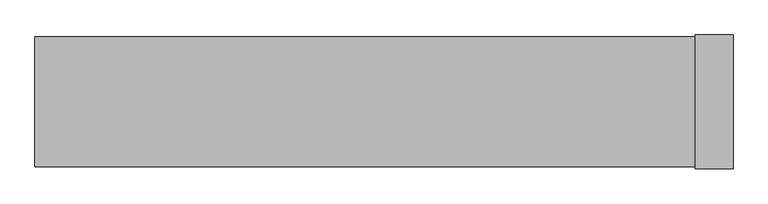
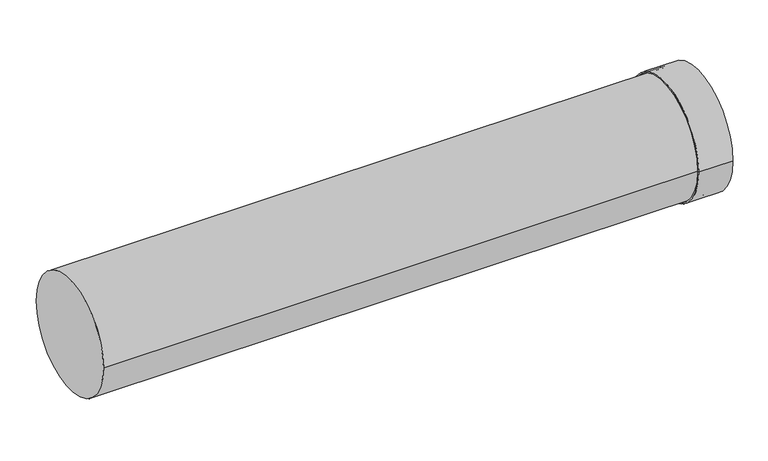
"""IFC4 building model written with IfcOpenShell, lengths in millimetres: duct fitting geometry, NLRS_57_DUF_UN_extension EPS_M&G : ø125 - ø200."""

from ifc_helpers import new_model, si_unit, point, frame, origin, origin_2d, place, context, project, spatial, polyline, circle_curve, trimmed, segment, composite_curve, outline, extrude, source, transform, mapped, element, save
from ifc_brep_helpers import plane_surface, cylinder_surface, revolved_surface, advanced_brep


def duct_fitting_ea8c9f57(model_context):
    return source(origin(), model_context, "Body", "SolidModel", [
        advanced_brep(
        [(973.0, -98.5, 0.0), (973.0, 98.5, 0.0), (1029.0, 98.5, 0.0), (1029.0, -98.5, 0.0), (973.0, -96.5, 0.0), (973.0, 96.5, 0.0), (1000.0, -96.5, 0.0), (1000.0, 96.5, 0.0), (1000.0, -94.5, 0.0), (1000.0, 94.5, 0.0), (1002.0, -96.5, 0.0), (1002.0, 96.5, 0.0), (1002.0, 94.5, 0.0), (1002.0, -94.5, 0.0), (1029.0, -96.5, 0.0), (1029.0, 96.5, 0.0)],
        [
            (0, 1, circle_curve(frame((973.0, 0.0, 0.0), z_axis=(1.0, 0.0, 0.0), x_axis=(0.0, 1.0, 0.0)), 98.5)),
            (1, 2),
            (2, 3, circle_curve(frame((1029.0, 0.0, 0.0), z_axis=(-1.0, 0.0, 0.0), x_axis=(0.0, 1.0, 0.0)), 98.5)),
            (3, 0),
            (1, 0, circle_curve(frame((973.0, 0.0, 0.0), z_axis=(1.0, 0.0, 0.0), x_axis=(0.0, 1.0, 0.0)), 98.5)),
            (3, 2, circle_curve(frame((1029.0, 0.0, 0.0), z_axis=(-1.0, 0.0, 0.0), x_axis=(0.0, 1.0, 0.0)), 98.5)),
            (4, 5, circle_curve(frame((973.0, 0.0, 0.0), z_axis=(1.0, 0.0, 0.0), x_axis=(0.0, 1.0, 0.0)), 96.5)),
            (5, 1),
            (0, 4),
            (5, 4, circle_curve(frame((973.0, 0.0, 0.0), z_axis=(1.0, 0.0, 0.0), x_axis=(0.0, 1.0, 0.0)), 96.5)),
            (6, 7, circle_curve(frame((1000.0, 0.0, 0.0), z_axis=(1.0, 0.0, 0.0), x_axis=(0.0, 1.0, 0.0)), 96.5)),
            (7, 5),
            (4, 6),
            (7, 6, circle_curve(frame((1000.0, 0.0, 0.0), z_axis=(1.0, 0.0, 0.0), x_axis=(0.0, 1.0, 0.0)), 96.5)),
            (8, 9, circle_curve(frame((1000.0, 0.0, 0.0), z_axis=(1.0, 0.0, 0.0), x_axis=(0.0, 1.0, 0.0)), 94.5)),
            (9, 7),
            (6, 8),
            (9, 8, circle_curve(frame((1000.0, 0.0, 0.0), z_axis=(1.0, 0.0, 0.0), x_axis=(0.0, 1.0, 0.0)), 94.5)),
            (10, 11, circle_curve(frame((1002.0, 0.0, 0.0), z_axis=(1.0, 0.0, 0.0), x_axis=(0.0, 1.0, 0.0)), 96.5)),
            (11, 12),
            (12, 13, circle_curve(frame((1002.0, 0.0, 0.0), z_axis=(-1.0, 0.0, 0.0), x_axis=(0.0, 1.0, 0.0)), 94.5)),
            (13, 10),
            (11, 10, circle_curve(frame((1002.0, 0.0, 0.0), z_axis=(1.0, 0.0, 0.0), x_axis=(0.0, 1.0, 0.0)), 96.5)),
            (13, 12, circle_curve(frame((1002.0, 0.0, 0.0), z_axis=(-1.0, 0.0, 0.0), x_axis=(0.0, 1.0, 0.0)), 94.5)),
            (14, 15, circle_curve(frame((1029.0, 0.0, 0.0), z_axis=(1.0, 0.0, 0.0), x_axis=(0.0, 1.0, 0.0)), 96.5)),
            (15, 11),
            (10, 14),
            (15, 14, circle_curve(frame((1029.0, 0.0, 0.0), z_axis=(1.0, 0.0, 0.0), x_axis=(0.0, 1.0, 0.0)), 96.5)),
            (2, 15),
            (14, 3),
            (12, 9),
            (8, 13),
        ],
        [
            cylinder_surface(frame((2976.5, 0.0, 0.0), z_axis=(-1.0, 0.0, 0.0), x_axis=(0.0, 1.0, 0.0)), 98.5),
            plane_surface(frame((973.0, 0.0, 0.0), z_axis=(-1.0, 0.0, 0.0), x_axis=(0.0, 1.0, 0.0))),
            revolved_surface(polyline([(973.0, 96.5, 0.0), (1000.0, 96.5, 0.0)]), (2976.5, 0.0, 0.0), (-1.0, 0.0, 0.0)),
            plane_surface(frame((1000.0, 0.0, 0.0), z_axis=(-1.0, 0.0, 0.0), x_axis=(0.0, 1.0, 0.0))),
            plane_surface(frame((1002.0, 0.0, 0.0), z_axis=(1.0, 0.0, 0.0), x_axis=(0.0, 1.0, 0.0))),
            revolved_surface(polyline([(1002.0, 96.5, 0.0), (1029.0, 96.5, 0.0)]), (2976.5, 0.0, 0.0), (-1.0, 0.0, 0.0)),
            plane_surface(frame((1029.0, 0.0, 0.0), z_axis=(1.0, 0.0, 0.0), x_axis=(0.0, 1.0, 0.0))),
            revolved_surface(polyline([(1000.0, 94.5, 0.0), (1002.0, 94.5, 0.0)]), (2976.5, 0.0, 0.0), (-1.0, 0.0, 0.0)),
        ],
        [
            (0, [[1, 2, 3, 4]]),
            (0, [[5, -4, 6, -2]]),
            (1, [[7, 8, -1, 9]]),
            (1, [[10, -9, -5, -8]]),
            (2, [[11, 12, -7, 13]]),
            (2, [[14, -13, -10, -12]]),
            (3, [[15, 16, -11, 17]]),
            (3, [[18, -17, -14, -16]]),
            (4, [[19, 20, 21, 22]]),
            (4, [[23, -22, 24, -20]]),
            (5, [[25, 26, -19, 27]]),
            (5, [[28, -27, -23, -26]]),
            (6, [[-3, 29, -25, 30]]),
            (6, [[-6, -30, -28, -29]]),
            (7, [[-21, 31, -15, 32]]),
            (7, [[-24, -32, -18, -31]]),
        ],
    ),
        extrude(outline(composite_curve([segment(trimmed(circle_curve(origin_2d(), 95.5), [point((-95.5, 0.0))], [point((95.5, 0.0))], False, "CARTESIAN"), True, "CONTINUOUS"), segment(trimmed(circle_curve(origin_2d(), 95.5), [point((95.5, 0.0))], [point((-95.5, 0.0))], False, "CARTESIAN"), True, "CONTINUOUS")], self_intersect=False)), frame((0.0, 0.0, 0.0), z_axis=(1.0, 0.0, 0.0), x_axis=(0.0, 1.0, 0.0)), (0.0, 0.0, 1.0), 1000.0),
    ])


if __name__ == "__main__":
    model = new_model("IFC4")
    model_context = context("Model", 3, world=origin())
    ifc_project = project(units=[si_unit("LENGTHUNIT", "METRE", prefix="MILLI")], contexts=[model_context])
    site = spatial("IfcSite", under=ifc_project)
    building = spatial("IfcBuilding", under=site)
    placement = place(None, origin())
    duct_fitting_shape = duct_fitting_ea8c9f57(model_context)
    element("IfcDuctFitting", 1, ObjectType="NLRS_57_DUF_UN_extension EPS_M&G : ø125 - ø200", at=placement, inside=building, context=model_context, shape_type="MappedRepresentation", body=[
        mapped(duct_fitting_shape, transform((0.0, 0.0, 0.0), x_axis=(1.0, 0.0, 0.0), y_axis=(0.0, 1.0, 0.0), z_axis=(0.0, 0.0, 1.0))),
    ])
    save(model, "model.ifc")
